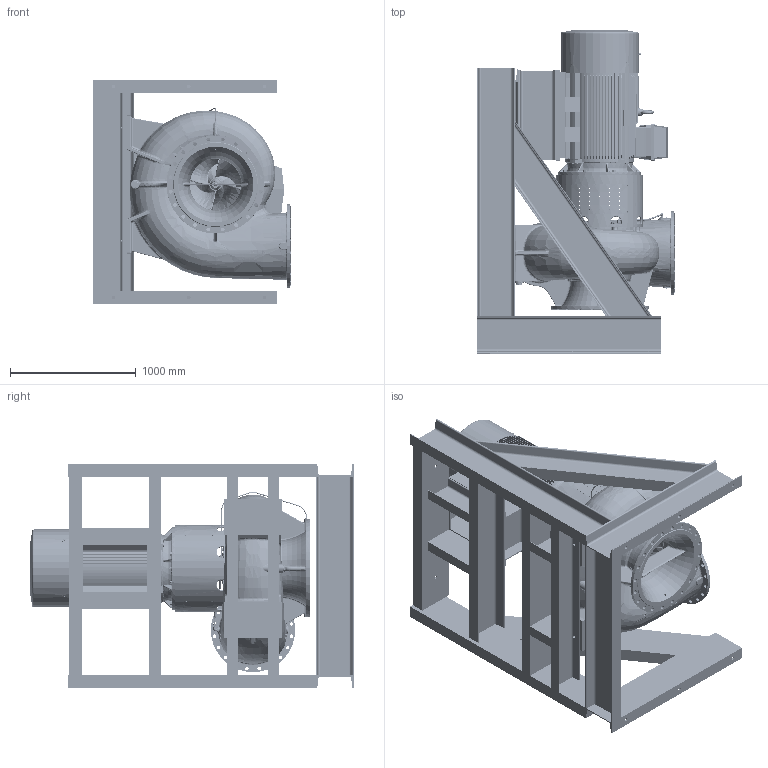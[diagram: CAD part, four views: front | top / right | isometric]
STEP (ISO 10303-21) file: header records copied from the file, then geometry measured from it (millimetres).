
FILE_DESCRIPTION((''),'2;1');
FILE_NAME('NSLV500-500_A02_FO_ASM','2024-05-28T',('maxz'),(''),'PRO/ENGINEER BY PARAMETRIC TECHNOLOGY CORPORATION, 2017170','PRO/ENGINEER BY PARAMETRIC TECHNOLOGY CORPORATION, 2017170','');
FILE_SCHEMA(('CONFIG_CONTROL_DESIGN'));
Products named in the file (72): 117650-1; 117650-10_AF0; 117650-10_AF1; 117650-3_AF0; 117650-3_AF1; 117650-4_AF1; 117650-4_AF0; 117650-5; 117650-6; 117650-2; 117650-2_AF0; 117650-7_AF0; 117650-7_AF1; 117650-8; 117650-9_AF1; 117650-9_AF0; 117650-11; 117650-12; 117650_ASM; 554020; 594810; 110865; 117304; 700953; 506842; 117395; 702103; 704371; 725989_1; 725989_2; 725989_ASM; 704268; 696100_ASM; 594190; 529280; 716824; 704020; 717871; 709627; 700923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
Assembly tree (145 placements, depth 5):
  NSLV500-500_A02_FO_ASM
    117650_ASM
      117650-1  x2
      117650-10_AF0
      117650-10_AF1
      117650-3_AF0
      117650-3_AF1
      117650-4_AF1
      117650-4_AF0
      117650-5
      117650-6
      117650-2  x2
      117650-2_AF0
      117650-7_AF0
      117650-7_AF1
      117650-8  x2
      117650-9_AF1
      117650-9_AF0
      117650-11  x2
      117650-12  x2
    698313_ASM
      554020
      594810
      696100_ASM
        110865
        117304
        700953  x2
        506842
        117395
        702103
        704371  x4
        725989_ASM
          725989_1
          725989_2
        704268
      594190
      529280
      716824
      704020
      717871
      709627
      700923
      705252
      594260
      704033  x16
      708678  x16
      700324  x8
      704390  x3
      704190
      506955
      708178  x2
      107370
      117394
      117393
      117397
      710912  x6
      703336  x4
      704188
      506953
      708437
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Bounding box: 1575 x 2571 x 1780 mm (x, y, z)
Volume: 499739920.5 mm3; surface area: 48373181.8 mm2
Topology: 184 solids, 276 shells, 9601 faces, 24201 edges, 15240 vertices
Faces by surface type: plane 3525, cylinder 2294, cone 1452, bspline 1111, torus 595, extrusion 461, sphere 157, revolution 6
Entity records: 492830 total; most frequent: CARTESIAN_POINT 301824, ORIENTED_EDGE 41404, DIRECTION 35996, EDGE_CURVE 20878, AXIS2_PLACEMENT_3D 13941, VERTEX_POINT 13311, EDGE_LOOP 9251, FACE_OUTER_BOUND 8220
